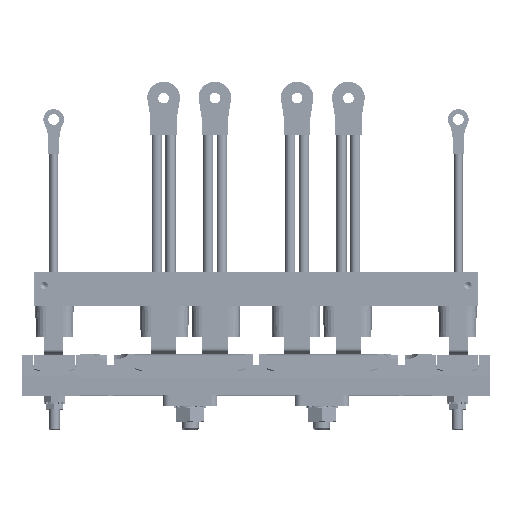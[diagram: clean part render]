
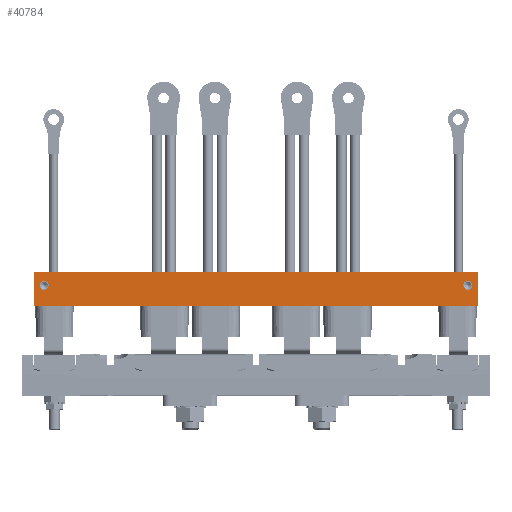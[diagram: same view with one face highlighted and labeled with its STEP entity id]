
A CAD part, top view. The second image highlights one B-rep face of the part: STEP entity #40784.
In plain terms, the highlighted planar face has unit normal (0, 0, 1) as drawn and (1, 0, 0) by its records, which use the part's own axes.
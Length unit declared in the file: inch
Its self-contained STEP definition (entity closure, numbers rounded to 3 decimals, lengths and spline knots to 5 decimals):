
#408 = VECTOR ( 'NONE', #37378, 39.37008 ) ;
#433 = ORIENTED_EDGE ( 'NONE', *, *, #39318, .F. ) ;
#515 = CARTESIAN_POINT ( 'NONE',  ( 4.813, 0.375, -7.9375 ) ) ;
#1718 = DIRECTION ( 'NONE',  ( 0., 0., -1. ) ) ;
#1795 = DIRECTION ( 'NONE',  ( 1., 0., 0. ) ) ;
#1917 = LINE ( 'NONE', #12527, #408 ) ;
#2513 = DIRECTION ( 'NONE',  ( 0., 0., -1. ) ) ;
#2738 = DIRECTION ( 'NONE',  ( -1., 0., 0. ) ) ;
#2936 = CARTESIAN_POINT ( 'NONE',  ( 4.813, 0., 0. ) ) ;
#3244 = AXIS2_PLACEMENT_3D ( 'NONE', #27420, #27468, #27526 ) ;
#4009 = DIRECTION ( 'NONE',  ( 0., 0., -1. ) ) ;
#4523 = DIRECTION ( 'NONE',  ( 1., 0., 0. ) ) ;
#4616 = CARTESIAN_POINT ( 'NONE',  ( 4.813, 0.625, 0. ) ) ;
#5698 = VERTEX_POINT ( 'NONE', #18313 ) ;
#6965 = VERTEX_POINT ( 'NONE', #39568 ) ;
#9269 = CARTESIAN_POINT ( 'NONE',  ( 4.813, 0.375, -0.2695 ) ) ;
#10061 = ORIENTED_EDGE ( 'NONE', *, *, #40681, .F. ) ;
#10514 = FACE_OUTER_BOUND ( 'NONE', #33726, .T. ) ;
#10617 = ORIENTED_EDGE ( 'NONE', *, *, #32820, .F. ) ;
#10812 = FACE_BOUND ( 'NONE', #26058, .T. ) ;
#11322 = VERTEX_POINT ( 'NONE', #12152 ) ;
#12152 = CARTESIAN_POINT ( 'NONE',  ( 4.813, 0.625, 0. ) ) ;
#12527 = CARTESIAN_POINT ( 'NONE',  ( 4.813, 0.625, -8.125 ) ) ;
#12852 = ORIENTED_EDGE ( 'NONE', *, *, #23091, .T. ) ;
#12944 = DIRECTION ( 'NONE',  ( 0., 0., -1. ) ) ;
#12992 = ORIENTED_EDGE ( 'NONE', *, *, #40051, .F. ) ;
#13105 = EDGE_CURVE ( 'NONE', #22080, #5698, #27500, .T. ) ;
#13539 = CARTESIAN_POINT ( 'NONE',  ( 4.813, 0.375, -7.8555 ) ) ;
#14498 = VERTEX_POINT ( 'NONE', #9269 ) ;
#15373 = VECTOR ( 'NONE', #2513, 39.37008 ) ;
#15465 = CIRCLE ( 'NONE', #17809, 0.082 ) ;
#16168 = EDGE_CURVE ( 'NONE', #19246, #14498, #17234, .T. ) ;
#16699 = CARTESIAN_POINT ( 'NONE',  ( 4.813, 0.625, 0. ) ) ;
#17234 = CIRCLE ( 'NONE', #3244, 0.082 ) ;
#17809 = AXIS2_PLACEMENT_3D ( 'NONE', #515, #25082, #4009 ) ;
#18145 = CIRCLE ( 'NONE', #36294, 0.082 ) ;
#18313 = CARTESIAN_POINT ( 'NONE',  ( 4.813, 0., -8.125 ) ) ;
#19246 = VERTEX_POINT ( 'NONE', #37938 ) ;
#20073 = PLANE ( 'NONE',  #22182 ) ;
#21771 = FACE_BOUND ( 'NONE', #39103, .T. ) ;
#22080 = VERTEX_POINT ( 'NONE', #27542 ) ;
#22182 = AXIS2_PLACEMENT_3D ( 'NONE', #16699, #2738, #27349 ) ;
#22976 = CARTESIAN_POINT ( 'NONE',  ( 4.813, 0.375, -7.9375 ) ) ;
#23091 = EDGE_CURVE ( 'NONE', #11322, #22080, #31980, .T. ) ;
#23345 = LINE ( 'NONE', #4616, #27692 ) ;
#24807 = CIRCLE ( 'NONE', #44082, 0.082 ) ;
#25082 = DIRECTION ( 'NONE',  ( 1., 0., 0. ) ) ;
#25534 = ORIENTED_EDGE ( 'NONE', *, *, #41420, .F. ) ;
#25621 = CARTESIAN_POINT ( 'NONE',  ( 4.813, 0.375, -0.1875 ) ) ;
#26058 = EDGE_LOOP ( 'NONE', ( #433, #37448 ) ) ;
#26254 = CARTESIAN_POINT ( 'NONE',  ( 4.813, 0.375, -8.0195 ) ) ;
#27349 = DIRECTION ( 'NONE',  ( 0., 0., 1. ) ) ;
#27420 = CARTESIAN_POINT ( 'NONE',  ( 4.813, 0.375, -0.1875 ) ) ;
#27468 = DIRECTION ( 'NONE',  ( 1., 0., 0. ) ) ;
#27500 = LINE ( 'NONE', #2936, #15373 ) ;
#27526 = DIRECTION ( 'NONE',  ( 0., 0., -1. ) ) ;
#27542 = CARTESIAN_POINT ( 'NONE',  ( 4.813, 0., 0. ) ) ;
#27692 = VECTOR ( 'NONE', #1718, 39.37008 ) ;
#29251 = DIRECTION ( 'NONE',  ( 0., 0., -1. ) ) ;
#31418 = VERTEX_POINT ( 'NONE', #13539 ) ;
#31936 = VECTOR ( 'NONE', #35253, 39.37008 ) ;
#31980 = LINE ( 'NONE', #41840, #31936 ) ;
#32820 = EDGE_CURVE ( 'NONE', #31418, #40596, #24807, .T. ) ;
#33726 = EDGE_LOOP ( 'NONE', ( #37309, #10061, #12992, #12852 ) ) ;
#35253 = DIRECTION ( 'NONE',  ( 0., -1., 0. ) ) ;
#36294 = AXIS2_PLACEMENT_3D ( 'NONE', #25621, #4523, #29251 ) ;
#37309 = ORIENTED_EDGE ( 'NONE', *, *, #13105, .T. ) ;
#37378 = DIRECTION ( 'NONE',  ( 0., -1., 0. ) ) ;
#37448 = ORIENTED_EDGE ( 'NONE', *, *, #16168, .F. ) ;
#37938 = CARTESIAN_POINT ( 'NONE',  ( 4.813, 0.375, -0.1055 ) ) ;
#39103 = EDGE_LOOP ( 'NONE', ( #25534, #10617 ) ) ;
#39318 = EDGE_CURVE ( 'NONE', #14498, #19246, #18145, .T. ) ;
#39568 = CARTESIAN_POINT ( 'NONE',  ( 4.813, 0.625, -8.125 ) ) ;
#40051 = EDGE_CURVE ( 'NONE', #11322, #6965, #23345, .T. ) ;
#40596 = VERTEX_POINT ( 'NONE', #26254 ) ;
#40681 = EDGE_CURVE ( 'NONE', #6965, #5698, #1917, .T. ) ;
#40784 = ADVANCED_FACE ( 'NONE', ( #10812, #21771, #10514 ), #20073, .F. ) ;
#41420 = EDGE_CURVE ( 'NONE', #40596, #31418, #15465, .T. ) ;
#41840 = CARTESIAN_POINT ( 'NONE',  ( 4.813, 0.625, 0. ) ) ;
#44082 = AXIS2_PLACEMENT_3D ( 'NONE', #22976, #1795, #12944 ) ;
